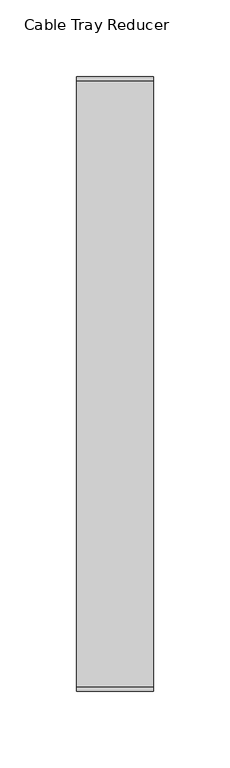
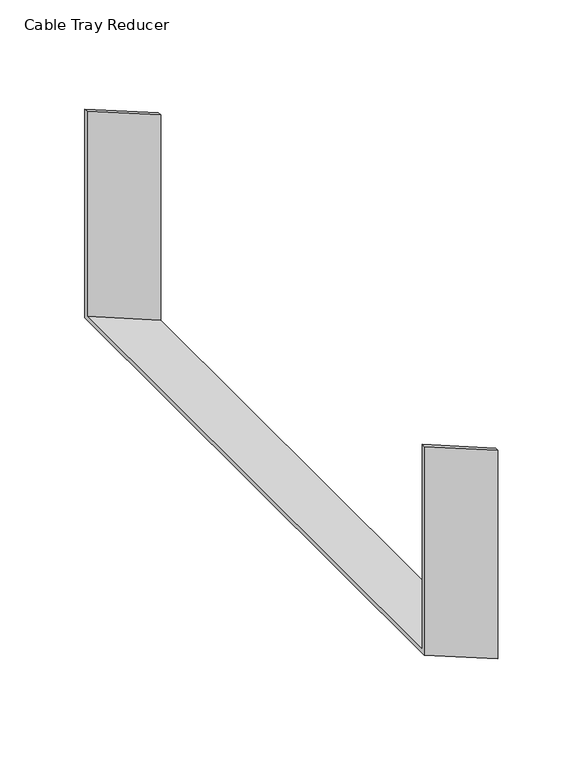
"""IFC4 building model written with IfcOpenShell, lengths in millimetres: cable carrier fitting geometry, Cable Tray Reducer : ELEC_ELV_TKG_N2402."""

from ifc_helpers import new_model, si_unit, origin, place, context, project, spatial, faceted_brep, source, transform, mapped, element, save


def cable_tray_reducer_bedc4a8b(model_context):
    return source(origin(), model_context, "Body", "Brep", [
        faceted_brep([(50.0, -199.9990025, -95.1142337), (50.0, 200.0009975, -95.1142337), (50.0, 200.0009975, 54.8857663), (50.0, 197.4609975, 54.8857663), (50.0, 197.4609975, -92.5742337), (50.0, -197.4590025, -92.5742337), (50.0, -197.4590025, 54.8857663), (50.0, -199.9990025, 54.8857663), (0.0, -200.0, -75.0), (0.0, -200.0, 75.0), (0.0, -197.46, 75.0), (0.0, -197.46, -72.46), (0.0, 197.46, -72.46), (0.0, 197.46, 75.0), (0.0, 200.0, 75.0), (0.0, 200.0, -75.0)], [[[0, 1, 2, 3, 4, 5, 6, 7]], [[8, 9, 10, 11, 12, 13, 14, 15]], [[8, 15, 1, 0]], [[15, 14, 2, 1]], [[14, 13, 3, 2]], [[13, 12, 4, 3]], [[12, 11, 5, 4]], [[11, 10, 6, 5]], [[10, 9, 7, 6]], [[9, 8, 0, 7]]]),
    ])


if __name__ == "__main__":
    model = new_model("IFC4")
    model_context = context("Model", 3, world=origin())
    ifc_project = project(units=[si_unit("LENGTHUNIT", "METRE", prefix="MILLI")], contexts=[model_context])
    site = spatial("IfcSite", under=ifc_project)
    building = spatial("IfcBuilding", under=site)
    placement = place(None, origin())
    cable_tray_reducer_shape = cable_tray_reducer_bedc4a8b(model_context)
    element("IfcCableCarrierFitting", 1, ObjectType="Cable Tray Reducer : ELEC_ELV_TKG_N2402", at=placement, inside=building, context=model_context, shape_type="MappedRepresentation", body=[
        mapped(cable_tray_reducer_shape, transform((0.0, 0.0, 0.0), x_axis=(1.0, 0.0, 0.0), y_axis=(0.0, 1.0, 0.0), z_axis=(0.0, 0.0, 1.0))),
    ])
    save(model, "model.ifc")
